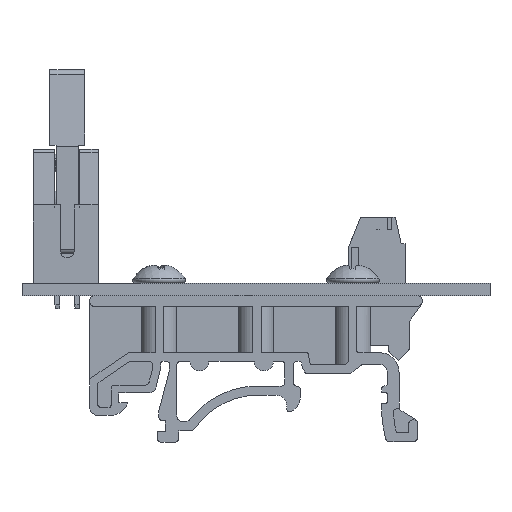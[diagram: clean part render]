
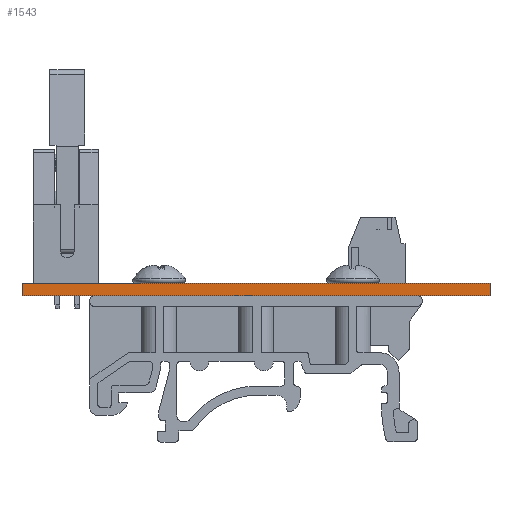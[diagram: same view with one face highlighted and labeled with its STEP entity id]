
A CAD part, front view. The second image highlights one B-rep face of the part: STEP entity #1543.
In plain terms, the highlighted planar face has unit normal (0, -1, 0).
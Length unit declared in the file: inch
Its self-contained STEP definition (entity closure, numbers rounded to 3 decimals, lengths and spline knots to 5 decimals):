
#1543 = ADVANCED_FACE ( 'NONE', ( #38720 ), #53197, .F. ) ;
#2343 = CARTESIAN_POINT ( 'NONE',  ( 3.38, 1.15, 0.0625 ) ) ;
#3154 = ORIENTED_EDGE ( 'NONE', *, *, #89916, .F. ) ;
#8552 = VERTEX_POINT ( 'NONE', #23295 ) ;
#20951 = CARTESIAN_POINT ( 'NONE',  ( 0., 1.15, 0.0625 ) ) ;
#23295 = CARTESIAN_POINT ( 'NONE',  ( 1., 1.15, 0.0625 ) ) ;
#38720 = FACE_OUTER_BOUND ( 'NONE', #57486, .T. ) ;
#40297 = CARTESIAN_POINT ( 'NONE',  ( 1., 1.15, 0.0625 ) ) ;
#41359 = ORIENTED_EDGE ( 'NONE', *, *, #116326, .F. ) ;
#46132 = DIRECTION ( 'NONE',  ( 1., 0., 0. ) ) ;
#48492 = AXIS2_PLACEMENT_3D ( 'NONE', #20951, #97561, #102767 ) ;
#50927 = CARTESIAN_POINT ( 'NONE',  ( 3.38, 1.15, 0.0625 ) ) ;
#53197 = PLANE ( 'NONE',  #48492 ) ;
#54990 = EDGE_CURVE ( 'NONE', #8552, #67199, #140603, .T. ) ;
#55720 = VECTOR ( 'NONE', #78953, 39.37008 ) ;
#57486 = EDGE_LOOP ( 'NONE', ( #105958, #3154, #41359, #59895 ) ) ;
#59895 = ORIENTED_EDGE ( 'NONE', *, *, #54990, .T. ) ;
#67199 = VERTEX_POINT ( 'NONE', #118473 ) ;
#70781 = VERTEX_POINT ( 'NONE', #87257 ) ;
#75148 = VECTOR ( 'NONE', #140277, 39.37008 ) ;
#75341 = CARTESIAN_POINT ( 'NONE',  ( 0., 1.15, 0. ) ) ;
#78953 = DIRECTION ( 'NONE',  ( 0., 0., -1. ) ) ;
#87257 = CARTESIAN_POINT ( 'NONE',  ( 3.38, 1.15, 0. ) ) ;
#88421 = EDGE_CURVE ( 'NONE', #67199, #70781, #129824, .T. ) ;
#89916 = EDGE_CURVE ( 'NONE', #120823, #70781, #115788, .T. ) ;
#93519 = DIRECTION ( 'NONE',  ( 0., 0., -1. ) ) ;
#96139 = VECTOR ( 'NONE', #93519, 39.37008 ) ;
#97561 = DIRECTION ( 'NONE',  ( 0., 1., 0. ) ) ;
#99741 = CARTESIAN_POINT ( 'NONE',  ( 0., 1.15, 0.0625 ) ) ;
#102767 = DIRECTION ( 'NONE',  ( 0., 0., 1. ) ) ;
#103333 = LINE ( 'NONE', #99741, #108422 ) ;
#105958 = ORIENTED_EDGE ( 'NONE', *, *, #88421, .T. ) ;
#108422 = VECTOR ( 'NONE', #46132, 39.37008 ) ;
#115788 = LINE ( 'NONE', #2343, #55720 ) ;
#116326 = EDGE_CURVE ( 'NONE', #8552, #120823, #103333, .T. ) ;
#118473 = CARTESIAN_POINT ( 'NONE',  ( 1., 1.15, 0. ) ) ;
#120823 = VERTEX_POINT ( 'NONE', #50927 ) ;
#129824 = LINE ( 'NONE', #75341, #75148 ) ;
#140277 = DIRECTION ( 'NONE',  ( 1., 0., 0. ) ) ;
#140603 = LINE ( 'NONE', #40297, #96139 ) ;
